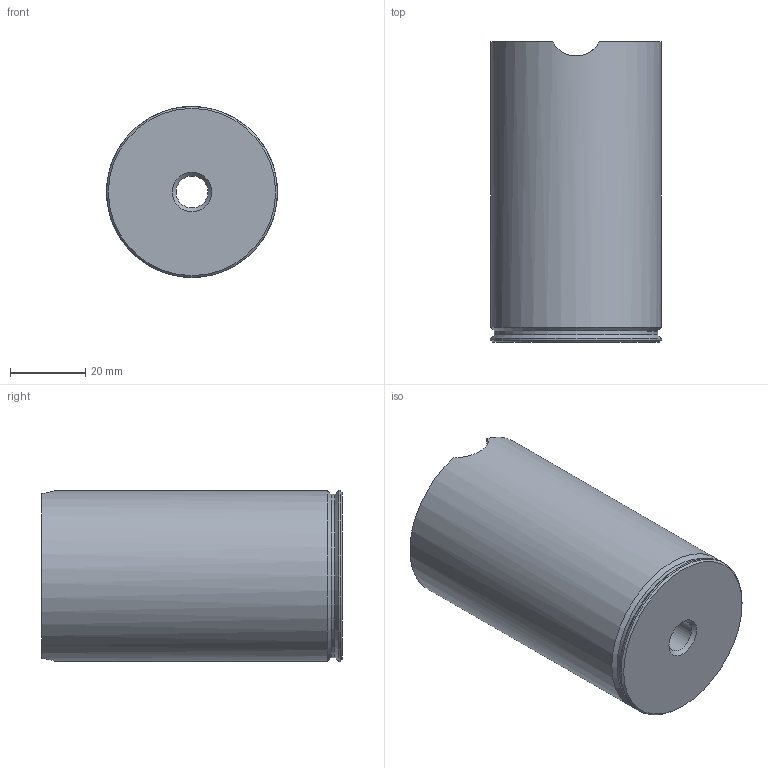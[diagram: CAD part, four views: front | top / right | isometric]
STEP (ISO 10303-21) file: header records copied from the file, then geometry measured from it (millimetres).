
FILE_DESCRIPTION(/* description */ (''),/* implementation_level */ '2;1');
FILE_NAME(/* name */ 'PokemonDrawers v2-middle1.step',/* time_stamp */ '2024-06-12T20:12:18+02:00',/* author */ (''),/* organization */ (''),/* preprocessor_version */ 'ST-DEVELOPER v20',/* originating_system */ 'Autodesk Translation Framework v13.14.0.145',/* authorisation */ '');
FILE_SCHEMA (('AUTOMOTIVE_DESIGN { 1 0 10303 214 3 1 1 }'));
Length unit declared in the file: millimetre
Products named in the file (2): PokemonDrawers; Component6
Assembly tree (1 placements, depth 2):
  PokemonDrawers
    Component6
Bounding box: 45.5 x 80 x 45.5 mm (x, y, z)
Volume: 23329.2 mm3; surface area: 25058.3 mm2
Topology: 1 solids, 1 shells, 18 faces, 39 edges, 24 vertices
Faces by surface type: cylinder 8, plane 5, cone 5
Full cylindrical faces by diameter (mm): 8.5 x1, 11.5 x1, 42.5 x1, 43.5 x1, 45.5 x2
Entity records: 592 total; most frequent: CARTESIAN_POINT 138, DIRECTION 93, ORIENTED_EDGE 78, EDGE_CURVE 39, AXIS2_PLACEMENT_3D 39, VERTEX_POINT 24, EDGE_LOOP 21, CIRCLE 18
